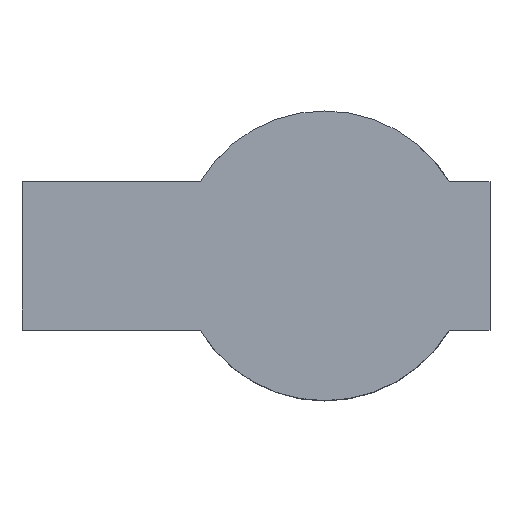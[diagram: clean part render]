
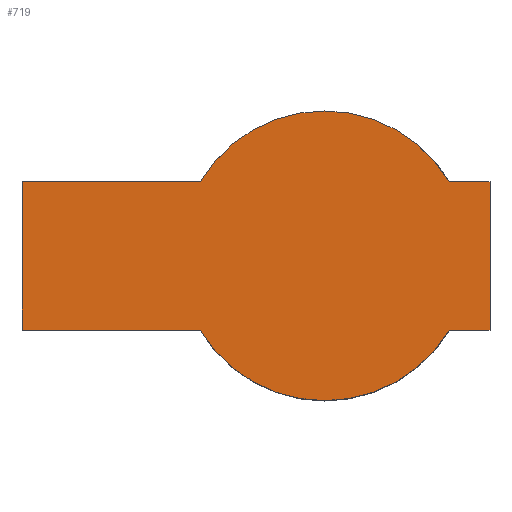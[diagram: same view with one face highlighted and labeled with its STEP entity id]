
A CAD part, top view. The second image highlights one B-rep face of the part: STEP entity #719.
In plain terms, the highlighted planar face has unit normal (0, 0, 1).
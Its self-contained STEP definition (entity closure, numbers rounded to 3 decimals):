
#13 = CARTESIAN_POINT ( 'NONE',  ( 11.13, 5., 8. ) ) ;
#14 = DIRECTION ( 'NONE',  ( 0., 0., 1. ) ) ;
#15 = CARTESIAN_POINT ( 'NONE',  ( 0., 0., 8. ) ) ;
#18 = CARTESIAN_POINT ( 'NONE',  ( 8.37, -5., 8. ) ) ;
#31 = CARTESIAN_POINT ( 'NONE',  ( 11.13, -5., 8. ) ) ;
#53 = AXIS2_PLACEMENT_3D ( 'NONE', #142, #70, #767 ) ;
#70 = DIRECTION ( 'NONE',  ( 0., 0., 1. ) ) ;
#75 = VECTOR ( 'NONE', #213, 1000. ) ;
#85 = CARTESIAN_POINT ( 'NONE',  ( 8.37, 5., 8. ) ) ;
#86 = CARTESIAN_POINT ( 'NONE',  ( 0., 0., 8. ) ) ;
#90 = DIRECTION ( 'NONE',  ( 0., -1., 0. ) ) ;
#121 = VECTOR ( 'NONE', #318, 1000. ) ;
#125 = EDGE_CURVE ( 'NONE', #662, #505, #406, .T. ) ;
#140 = EDGE_CURVE ( 'NONE', #578, #414, #332, .T. ) ;
#142 = CARTESIAN_POINT ( 'NONE',  ( 0., 0., 8. ) ) ;
#159 = PLANE ( 'NONE',  #462 ) ;
#163 = CARTESIAN_POINT ( 'NONE',  ( -20.37, 5., 8. ) ) ;
#202 = ORIENTED_EDGE ( 'NONE', *, *, #545, .T. ) ;
#211 = VERTEX_POINT ( 'NONE', #221 ) ;
#213 = DIRECTION ( 'NONE',  ( -1., 0., 0. ) ) ;
#221 = CARTESIAN_POINT ( 'NONE',  ( -20.37, 5., 8. ) ) ;
#231 = VECTOR ( 'NONE', #90, 1000. ) ;
#236 = DIRECTION ( 'NONE',  ( 0., 1., 0. ) ) ;
#238 = LINE ( 'NONE', #163, #231 ) ;
#259 = VECTOR ( 'NONE', #333, 1000. ) ;
#280 = DIRECTION ( 'NONE',  ( 1., 0., 0. ) ) ;
#298 = CARTESIAN_POINT ( 'NONE',  ( 8.37, 5., 8. ) ) ;
#316 = ORIENTED_EDGE ( 'NONE', *, *, #534, .T. ) ;
#318 = DIRECTION ( 'NONE',  ( -1., 0., 0. ) ) ;
#321 = CARTESIAN_POINT ( 'NONE',  ( 11.13, 5., 8. ) ) ;
#330 = ORIENTED_EDGE ( 'NONE', *, *, #140, .T. ) ;
#332 = CIRCLE ( 'NONE', #655, 9.75 ) ;
#333 = DIRECTION ( 'NONE',  ( 1., 0., 0. ) ) ;
#335 = EDGE_LOOP ( 'NONE', ( #330, #340, #595, #316, #202, #741, #436, #636 ) ) ;
#340 = ORIENTED_EDGE ( 'NONE', *, *, #770, .T. ) ;
#366 = CARTESIAN_POINT ( 'NONE',  ( 11.13, -5., 8. ) ) ;
#371 = EDGE_CURVE ( 'NONE', #642, #578, #504, .T. ) ;
#404 = CARTESIAN_POINT ( 'NONE',  ( -8.37, 5., 8. ) ) ;
#406 = LINE ( 'NONE', #321, #594 ) ;
#409 = EDGE_CURVE ( 'NONE', #211, #642, #238, .T. ) ;
#414 = VERTEX_POINT ( 'NONE', #18 ) ;
#417 = CARTESIAN_POINT ( 'NONE',  ( -20.37, -5., 8. ) ) ;
#436 = ORIENTED_EDGE ( 'NONE', *, *, #409, .T. ) ;
#448 = LINE ( 'NONE', #366, #766 ) ;
#462 = AXIS2_PLACEMENT_3D ( 'NONE', #86, #14, #711 ) ;
#488 = LINE ( 'NONE', #404, #121 ) ;
#499 = EDGE_CURVE ( 'NONE', #633, #211, #488, .T. ) ;
#501 = VERTEX_POINT ( 'NONE', #85 ) ;
#504 = LINE ( 'NONE', #417, #259 ) ;
#505 = VERTEX_POINT ( 'NONE', #13 ) ;
#534 = EDGE_CURVE ( 'NONE', #505, #501, #547, .T. ) ;
#545 = EDGE_CURVE ( 'NONE', #501, #633, #586, .T. ) ;
#547 = LINE ( 'NONE', #298, #75 ) ;
#562 = FACE_OUTER_BOUND ( 'NONE', #335, .T. ) ;
#578 = VERTEX_POINT ( 'NONE', #704 ) ;
#586 = CIRCLE ( 'NONE', #53, 9.75 ) ;
#590 = CARTESIAN_POINT ( 'NONE',  ( -20.37, -5., 8. ) ) ;
#594 = VECTOR ( 'NONE', #236, 1000. ) ;
#595 = ORIENTED_EDGE ( 'NONE', *, *, #125, .T. ) ;
#632 = DIRECTION ( 'NONE',  ( 1., 0., 0. ) ) ;
#633 = VERTEX_POINT ( 'NONE', #670 ) ;
#636 = ORIENTED_EDGE ( 'NONE', *, *, #371, .T. ) ;
#642 = VERTEX_POINT ( 'NONE', #590 ) ;
#655 = AXIS2_PLACEMENT_3D ( 'NONE', #15, #712, #632 ) ;
#662 = VERTEX_POINT ( 'NONE', #31 ) ;
#670 = CARTESIAN_POINT ( 'NONE',  ( -8.37, 5., 8. ) ) ;
#704 = CARTESIAN_POINT ( 'NONE',  ( -8.37, -5., 8. ) ) ;
#711 = DIRECTION ( 'NONE',  ( 1., 0., 0. ) ) ;
#712 = DIRECTION ( 'NONE',  ( 0., 0., 1. ) ) ;
#719 = ADVANCED_FACE ( 'NONE', ( #562 ), #159, .T. ) ;
#741 = ORIENTED_EDGE ( 'NONE', *, *, #499, .T. ) ;
#766 = VECTOR ( 'NONE', #280, 1000. ) ;
#767 = DIRECTION ( 'NONE',  ( 1., 0., 0. ) ) ;
#770 = EDGE_CURVE ( 'NONE', #414, #662, #448, .T. ) ;
